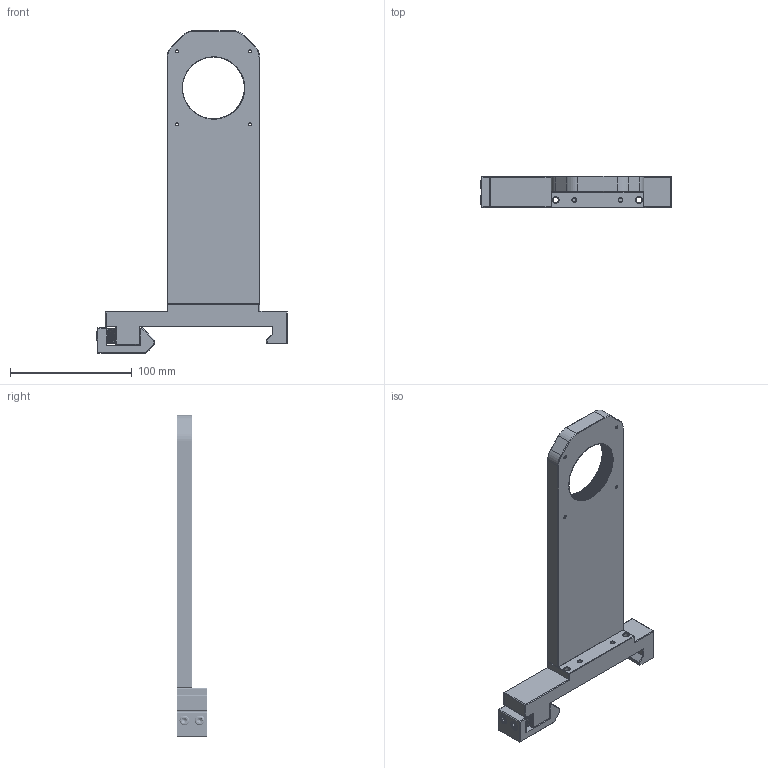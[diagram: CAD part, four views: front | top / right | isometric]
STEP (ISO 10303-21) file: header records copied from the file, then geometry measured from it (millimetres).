
FILE_DESCRIPTION((''),'2;1');
FILE_NAME('OPH95-FAM2_ASM','2024-04-09T16:10:23',('R&D'),(''),'CREO PARAMETRIC BY PTC INC, 2021063','CREO PARAMETRIC BY PTC INC, 2021063','');
FILE_SCHEMA(('CONFIG_CONTROL_DESIGN'));
Products named in the file (13): OPH95-FAM2-A0; OPH95-FAM2-A1; OPH95-FAM2-A2; OPH95-FAM2-A3; OPH95-FAM2-A4; OPH95-FAM2-A5; OPH95-FAM2-A6; OPH95-FAM2-A8; OPH95-FAM2-A9; OPH95-FAM2-B1; OPH95-FAM2-B2; OPH95-FAM2-B0_ASM; OPH95-FAM2_ASM
Assembly tree (12 placements, depth 3):
  OPH95-FAM2_ASM
    OPH95-FAM2-B0_ASM
      OPH95-FAM2-A0
      OPH95-FAM2-A1
      OPH95-FAM2-A2
      OPH95-FAM2-A3
      OPH95-FAM2-A4
      OPH95-FAM2-A5
      OPH95-FAM2-A6
      OPH95-FAM2-A8
      OPH95-FAM2-A9
      OPH95-FAM2-B1
      OPH95-FAM2-B2
Bounding box: 157.11 x 25.4 x 265.3 mm (x, y, z)
Volume: 270799.4 mm3; surface area: 70343.2 mm2
Topology: 11 solids, 11 shells, 1287 faces, 3551 edges, 2242 vertices
Faces by surface type: cylinder 842, plane 172, bspline 159, cone 106, torus 8
Entity records: 122762 total; most frequent: CARTESIAN_POINT 93655, ORIENTED_EDGE 7070, DIRECTION 4337, EDGE_CURVE 3535, VERTEX_POINT 2242, B_SPLINE_CURVE_WITH_KNOTS 1850, AXIS2_PLACEMENT_3D 1488, VECTOR 1361
